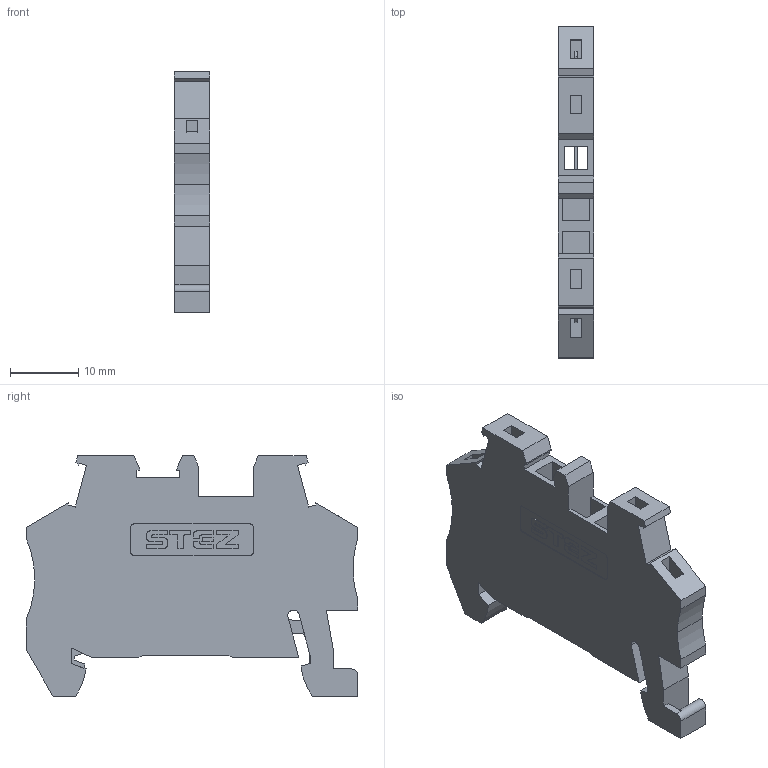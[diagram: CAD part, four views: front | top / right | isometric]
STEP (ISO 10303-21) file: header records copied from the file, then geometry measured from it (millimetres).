
FILE_DESCRIPTION(('TFLEX Exchange Step'),'2;1');
FILE_NAME('15100000_CK3_35-5.stp', '2023-10-25T08:53:57+03:00',('apanin'),('Unknown organisation'),'TFLEX Exchange 2023.0','T-FLEX CAD','Unknown authorisation');
FILE_SCHEMA( ('AUTOMOTIVE_DESIGN { 1 0 10303 214 1 1 1 1 }') );
Length unit declared in the file: millimetre
Products named in the file (1): Тело_1 - 1:1
Bounding box: 5.15 x 48.6 x 35.25 mm (x, y, z)
Volume: 5707.7 mm3; surface area: 4644.3 mm2
Topology: 1 solids, 1 shells, 361 faces, 1043 edges, 696 vertices
Faces by surface type: plane 187, cylinder 174
Entity records: 12035 total; most frequent: DIRECTION 2111, CARTESIAN_POINT 2110, ORIENTED_EDGE 2086, EDGE_CURVE 1043, AXIS2_PLACEMENT_3D 711, VERTEX_POINT 696, VECTOR 689, LINE 689
